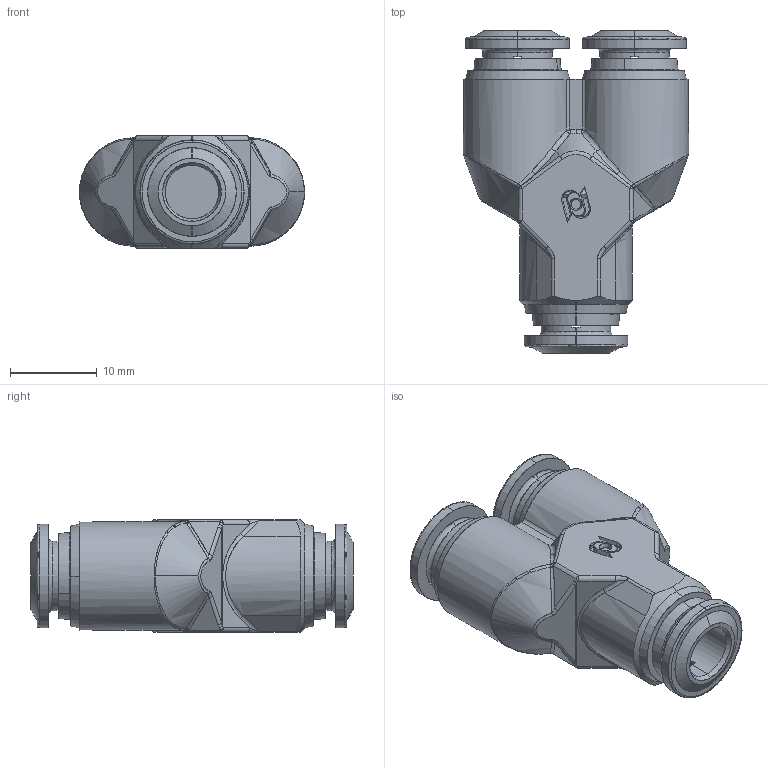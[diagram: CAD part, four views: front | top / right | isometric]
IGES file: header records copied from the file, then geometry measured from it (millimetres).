
Start section: SolidWorks IGES file using analytic representation for surfaces
Global section: file name: K:\Disegni Esecutivi\Serie 57000\ASSIEMI_57000\57310\ASSIEMI_PIENI_57310\5731000002.IGS; native system: SolidWorks 2008; preprocessor: SolidWorks 2008; author: cad02; date: 080212.105847; units: millimetre
Bounding box: 26 x 37.2 x 13 mm (x, y, z)
Surface area: 3244.2 mm2 (no closed solid volume)
Topology: 0 solids, 0 shells, 318 faces, 3294 edges, 3280 vertices
Faces by surface type: bspline 180, revolution 138
